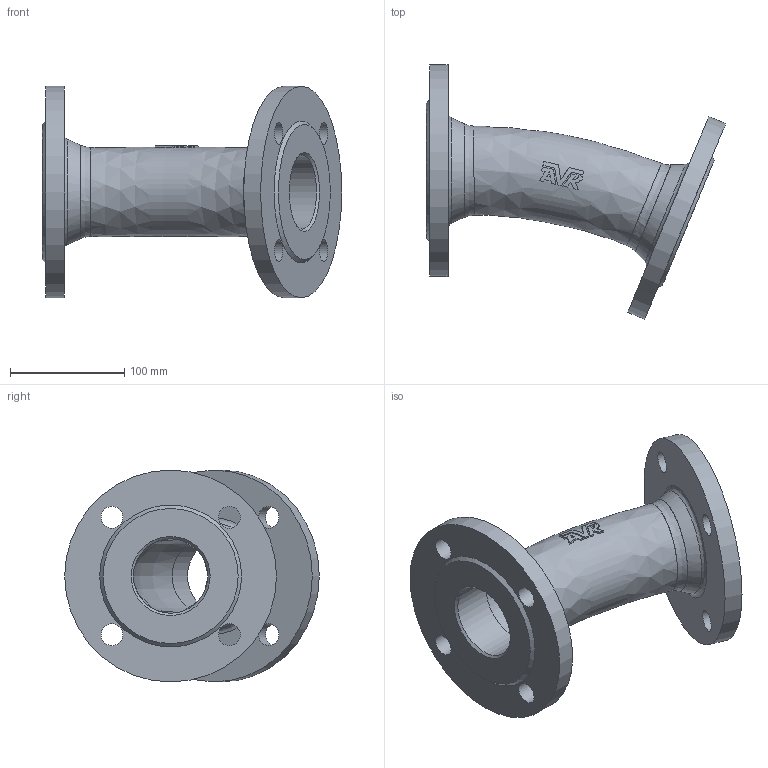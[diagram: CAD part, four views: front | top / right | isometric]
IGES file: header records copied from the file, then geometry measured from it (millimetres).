
Start section: SolidWorks IGES file using analytic representation for surfaces
Global section: file name: \\avksan2\techshare\PBM outline export from Enovia\O_712_0210_DN65_1X_REV01.igs; native system: SolidWorks 2022; preprocessor: SolidWorks 2022; author: pbm; date: 240816.113750; units: millimetre
Bounding box: 261.57 x 222.35 x 185 mm (x, y, z)
Surface area: 207467.4 mm2 (no closed solid volume)
Topology: 0 solids, 1 shells, 72 faces, 349 edges, 321 vertices
Faces by surface type: bspline 43, revolution 29
